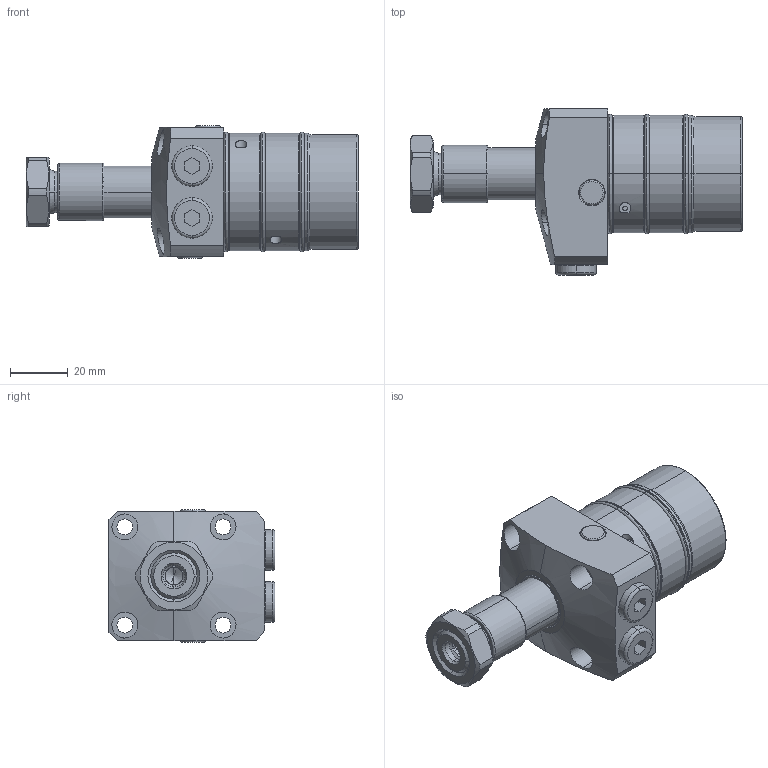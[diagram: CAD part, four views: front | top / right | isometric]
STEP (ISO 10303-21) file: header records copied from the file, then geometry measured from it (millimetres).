
FILE_DESCRIPTION(/* description */ (''),/* implementation_level */ '2;1');
FILE_NAME(/* name */ 'KTRW40-LE.stp',/* time_stamp */ '2022-11-18T10:53:06+08:00',/* author */ (''),/* organization */ (''),/* preprocessor_version */ 'ST-DEVELOPER v16.7',/* originating_system */ 'SIEMENS PLM Software NX 12.0',/* authorisation */ '');
FILE_SCHEMA (('AP203_CONFIGURATION_CONTROLLED_3D_DESIGN_OF_MECHANICAL_PARTS_AND_ASSEMBLIES_MIM_LF { 1 0 10303 403 2 1 2}'));
Length unit declared in the file: millimetre
Products named in the file (8): KTRW40-LE-01; KTRW40-LE-02; KTRW40-LE-03; KTRW40-LE-06; KTRW40-LE-05; KTRW40-LE-07; KTRW40-LE-04; LHW0401-CLE_step
Assembly tree (9 placements, depth 2):
  LHW0401-CLE_step
    KTRW40-LE-04
    KTRW40-LE-07  x2
    KTRW40-LE-05
    KTRW40-LE-06  x2
    KTRW40-LE-03
    KTRW40-LE-02
    KTRW40-LE-01
Bounding box: 115 x 57.5 x 45.8 mm (x, y, z)
Volume: 120921.2 mm3; surface area: 29202.5 mm2
Topology: 12 solids, 12 shells, 379 faces, 839 edges, 511 vertices
Faces by surface type: cylinder 119, plane 103, torus 84, cone 71, sphere 2
Entity records: 10461 total; most frequent: CARTESIAN_POINT 2089, DIRECTION 1698, ORIENTED_EDGE 1438, AXIS2_PLACEMENT_3D 727, EDGE_CURVE 719, VERTEX_POINT 441, CIRCLE 394, EDGE_LOOP 368
